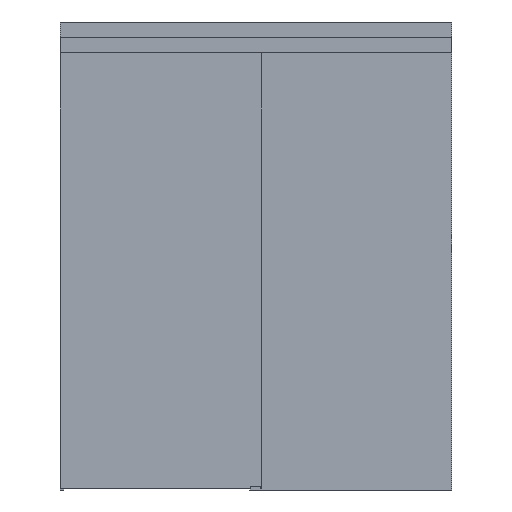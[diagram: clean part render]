
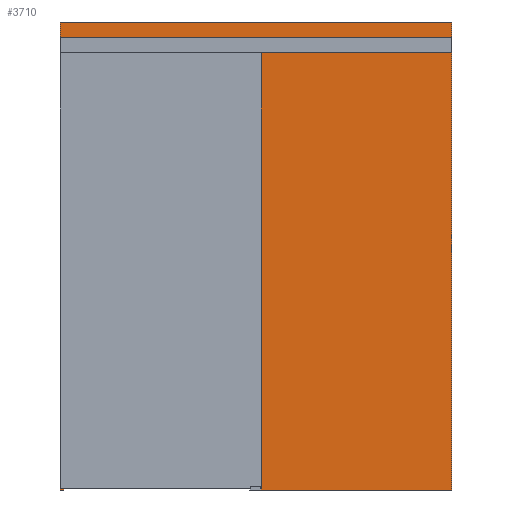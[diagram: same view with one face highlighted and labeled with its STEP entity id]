
A CAD part, front view. The second image highlights one B-rep face of the part: STEP entity #3710.
In plain terms, the highlighted planar face has unit normal (0, -1, 0).
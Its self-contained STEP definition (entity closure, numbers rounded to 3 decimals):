
#3710=ADVANCED_FACE('',(#7547),#7548,.T.);
#7547=FACE_OUTER_BOUND('',#11414,.T.);
#7548=PLANE('',#11415);
#11414=EDGE_LOOP('',(#21554,#21555,#21556,#21557,#21558,#21559,#21560,#21561));
#11415=AXIS2_PLACEMENT_3D('',#21562,#21563,#21564);
#21554=ORIENTED_EDGE('',*,*,#26738,.F.);
#21555=ORIENTED_EDGE('',*,*,#26736,.F.);
#21556=ORIENTED_EDGE('',*,*,#26732,.T.);
#21557=ORIENTED_EDGE('',*,*,#26730,.T.);
#21558=ORIENTED_EDGE('',*,*,#26727,.F.);
#21559=ORIENTED_EDGE('',*,*,#26724,.T.);
#21560=ORIENTED_EDGE('',*,*,#26721,.T.);
#21561=ORIENTED_EDGE('',*,*,#26708,.F.);
#21562=CARTESIAN_POINT('',(0.0,36.0,2400.0));
#21563=DIRECTION('',(0.0,-1.0,0.0));
#21564=DIRECTION('',(0.0,0.0,-1.0));
#26708=EDGE_CURVE('',#32785,#32788,#32789,.T.);
#26721=EDGE_CURVE('',#32808,#32788,#32810,.T.);
#26724=EDGE_CURVE('',#32812,#32808,#32814,.T.);
#26727=EDGE_CURVE('',#32812,#32816,#32818,.T.);
#26730=EDGE_CURVE('',#32820,#32816,#32822,.T.);
#26732=EDGE_CURVE('',#32824,#32820,#32825,.T.);
#26736=EDGE_CURVE('',#32824,#32828,#32830,.T.);
#26738=EDGE_CURVE('',#32828,#32785,#32832,.T.);
#32785=VERTEX_POINT('',#41082);
#32788=VERTEX_POINT('',#41086);
#32789=LINE('',#41087,#41088);
#32808=VERTEX_POINT('',#41116);
#32810=LINE('',#41119,#41120);
#32812=VERTEX_POINT('',#41122);
#32814=LINE('',#41125,#41126);
#32816=VERTEX_POINT('',#41128);
#32818=LINE('',#41131,#41132);
#32820=VERTEX_POINT('',#41134);
#32822=LINE('',#41137,#41138);
#32824=VERTEX_POINT('',#41140);
#32825=LINE('',#41141,#41142);
#32828=VERTEX_POINT('',#41146);
#32830=LINE('',#41149,#41150);
#32832=LINE('',#41152,#41153);
#41082=CARTESIAN_POINT('',(0.0,36.0,2448.0));
#41086=CARTESIAN_POINT('',(2050.0,36.0,2448.0));
#41087=CARTESIAN_POINT('',(0.0,36.0,2448.0));
#41088=VECTOR('',#46833,1.0);
#41116=CARTESIAN_POINT('',(2050.0,36.0,0.0));
#41119=CARTESIAN_POINT('',(2050.0,36.0,7.0));
#41120=VECTOR('',#46844,1.0);
#41122=CARTESIAN_POINT('',(993.0,36.0,0.0));
#41125=CARTESIAN_POINT('',(1327.5,36.0,0.0));
#41126=VECTOR('',#46846,1.0);
#41128=CARTESIAN_POINT('',(993.0,36.0,2288.0));
#41131=CARTESIAN_POINT('',(993.0,36.0,7.0));
#41132=VECTOR('',#46848,1.0);
#41134=CARTESIAN_POINT('',(20.0,36.0,2288.0));
#41137=CARTESIAN_POINT('',(0.0,36.0,2288.0));
#41138=VECTOR('',#46850,1.0);
#41140=CARTESIAN_POINT('',(20.0,36.0,0.0));
#41141=CARTESIAN_POINT('',(20.0,36.0,0.0));
#41142=VECTOR('',#46851,1.0);
#41146=CARTESIAN_POINT('',(0.0,36.0,0.0));
#41149=CARTESIAN_POINT('',(20.0,36.0,0.0));
#41150=VECTOR('',#46854,1.0);
#41152=CARTESIAN_POINT('',(0.0,36.0,1812.0));
#41153=VECTOR('',#46855,1.0);
#46833=DIRECTION('',(1.0,0.0,0.0));
#46844=DIRECTION('',(0.0,0.0,1.0));
#46846=DIRECTION('',(1.0,0.0,0.0));
#46848=DIRECTION('',(0.0,0.0,1.0));
#46850=DIRECTION('',(1.0,0.0,0.0));
#46851=DIRECTION('',(0.0,0.0,1.0));
#46854=DIRECTION('',(-1.0,0.0,0.0));
#46855=DIRECTION('',(0.0,0.0,1.0));
